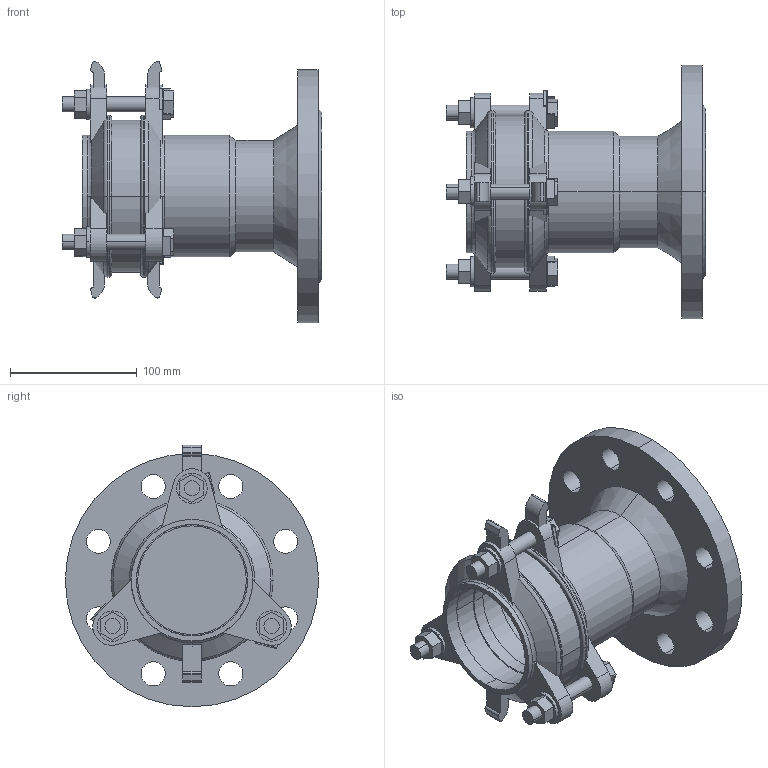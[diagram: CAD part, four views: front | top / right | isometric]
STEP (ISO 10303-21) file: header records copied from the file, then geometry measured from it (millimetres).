
FILE_DESCRIPTION(('STEP AP214'),'1');
FILE_NAME('EM00003937 DN 80-65.STP','2015-01-29T09:00:58',(' '),(' '),'Spatial InterOp 3D',' ',' ');
FILE_SCHEMA(('automotive_design'));
Length unit declared in the file: millimetre
Products named in the file (38): 3D-Objekt
Bounding box: 205 x 200 x 206.55 mm (x, y, z)
Volume: 1062832.4 mm3; surface area: 337998.7 mm2
Topology: 38 solids, 38 shells, 307 faces, 691 edges, 460 vertices
Faces by surface type: plane 186, cylinder 95, cone 14, torus 12
Entity records: 12021 total; most frequent: DIRECTION 1633, CARTESIAN_POINT 1496, ORIENTED_EDGE 1382, EDGE_CURVE 691, AXIS2_PLACEMENT_3D 597, VERTEX_POINT 460, LINE 439, VECTOR 439
